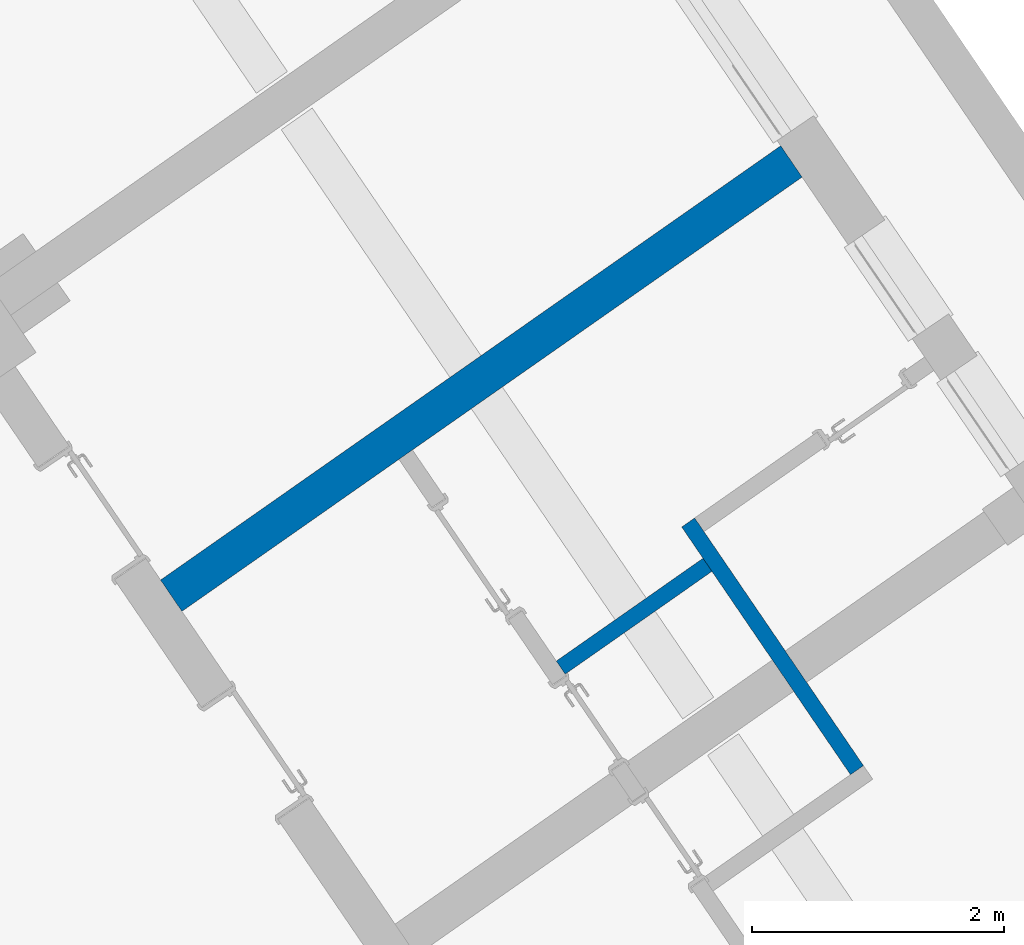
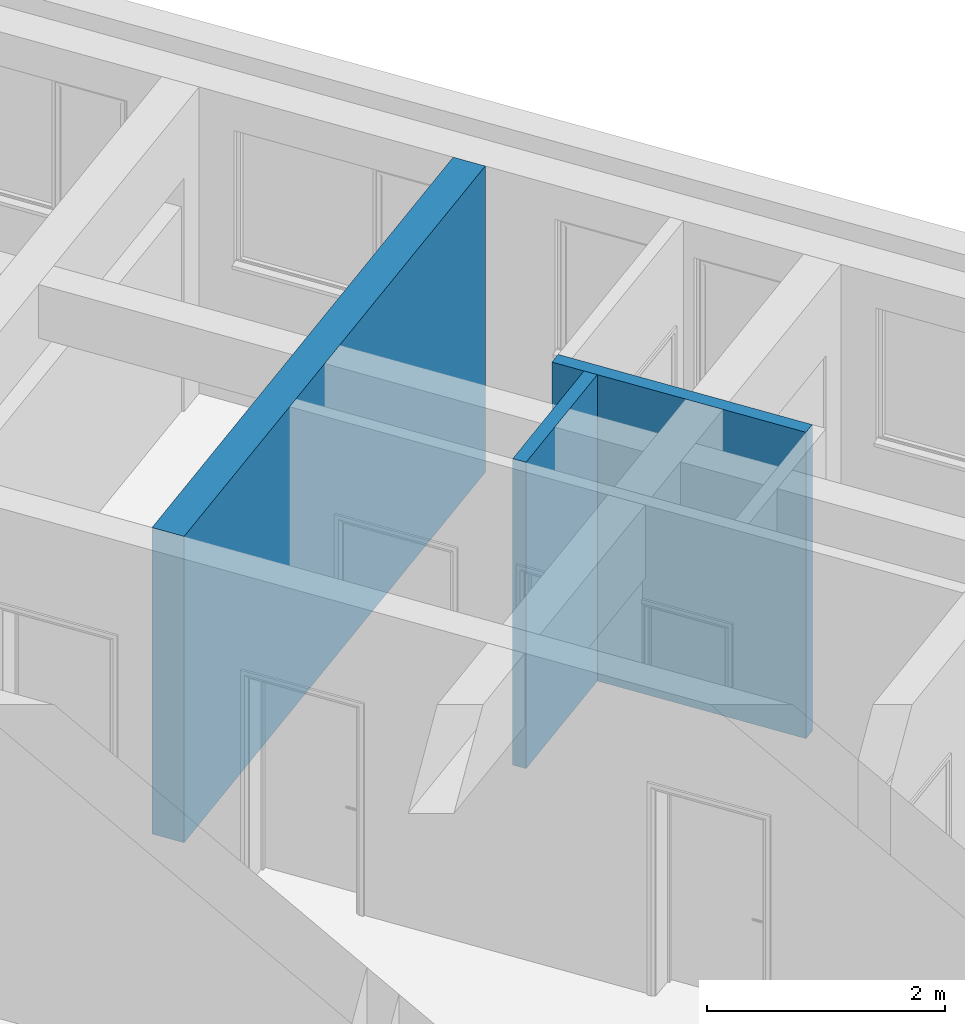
# One storey, part 54 of 112: 3 walls.
"""IFC2X3 building model written with IfcOpenShell, lengths in millimetres."""

from ifc_helpers import new_model, entity, si_unit, converted_unit, derived_unit, direction, frame, origin, place, context, subcontext, project, spatial, polyline, outline, extrude, material, layer, layer_set, layer_usage, type_object, element, save


model = new_model("IFC2X3")

# Units and contexts
model_context = context("Model", 3, precision=0.01, world=origin(), true_north=direction((6.123031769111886e-17, 1.0)))
body_context = subcontext(model_context, "Body", "Model", "MODEL_VIEW")
ifc_project = project(units=[si_unit("LENGTHUNIT", "METRE", prefix="MILLI"), si_unit("AREAUNIT", "SQUARE_METRE"), si_unit("VOLUMEUNIT", "CUBIC_METRE"), converted_unit("PLANEANGLEUNIT", "DEGREE", entity("IfcRatioMeasure", 0.017453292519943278), si_unit("PLANEANGLEUNIT", "RADIAN"), dimensions=[0, 0, 0, 0, 0, 0, 0]), si_unit("MASSUNIT", "GRAM", prefix="KILO"), derived_unit("MASSDENSITYUNIT", [(si_unit("MASSUNIT", "GRAM", prefix="KILO"), 1), (si_unit("LENGTHUNIT", "METRE"), -3)]), derived_unit("MOMENTOFINERTIAUNIT", [(si_unit("LENGTHUNIT", "METRE"), 4)]), si_unit("TIMEUNIT", "SECOND"), si_unit("FREQUENCYUNIT", "HERTZ"), si_unit("THERMODYNAMICTEMPERATUREUNIT", "DEGREE_CELSIUS"), derived_unit("THERMALTRANSMITTANCEUNIT", [(si_unit("MASSUNIT", "GRAM", prefix="KILO"), 1), (si_unit("THERMODYNAMICTEMPERATUREUNIT", "KELVIN"), -1), (si_unit("TIMEUNIT", "SECOND"), -3)]), derived_unit("THERMALCONDUCTANCEUNIT", [(si_unit("MASSUNIT", "GRAM", prefix="KILO"), 1), (si_unit("LENGTHUNIT", "METRE"), 1), (si_unit("THERMODYNAMICTEMPERATUREUNIT", "KELVIN"), -1), (si_unit("TIMEUNIT", "SECOND"), -3)]), derived_unit("VOLUMETRICFLOWRATEUNIT", [(si_unit("LENGTHUNIT", "METRE"), 3), (si_unit("TIMEUNIT", "SECOND"), -1)]), derived_unit("MASSFLOWRATEUNIT", [(si_unit("MASSUNIT", "GRAM", prefix="KILO"), 1), (si_unit("TIMEUNIT", "SECOND"), -1)]), derived_unit("ROTATIONALFREQUENCYUNIT", [(si_unit("TIMEUNIT", "SECOND"), -1)]), si_unit("ELECTRICCURRENTUNIT", "AMPERE"), si_unit("ELECTRICVOLTAGEUNIT", "VOLT"), si_unit("POWERUNIT", "WATT"), converted_unit("FORCEUNIT", "KIP", entity("IfcRatioMeasure", 2.088543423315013e-05), si_unit("FORCEUNIT", "NEWTON"), dimensions=[1, 1, -2, 0, 0, 0, 0]), si_unit("ILLUMINANCEUNIT", "LUX"), si_unit("LUMINOUSFLUXUNIT", "LUMEN"), si_unit("LUMINOUSINTENSITYUNIT", "CANDELA"), derived_unit("USERDEFINED", [(si_unit("MASSUNIT", "GRAM", prefix="KILO"), -1), (si_unit("LENGTHUNIT", "METRE"), -2), (si_unit("TIMEUNIT", "SECOND"), 3), (si_unit("LUMINOUSFLUXUNIT", "LUMEN"), 1)]), derived_unit("USERDEFINED", [(si_unit("MASSUNIT", "GRAM", prefix="KILO"), 1), (si_unit("LENGTHUNIT", "METRE"), 3), (si_unit("TIMEUNIT", "SECOND"), -3), (si_unit("ELECTRICCURRENTUNIT", "AMPERE"), -2)]), derived_unit("USERDEFINED", [(si_unit("LENGTHUNIT", "METRE"), 2), (si_unit("TIMEUNIT", "SECOND"), -2)]), derived_unit("SOUNDPOWERUNIT", [(si_unit("MASSUNIT", "GRAM", prefix="KILO"), 1), (si_unit("LENGTHUNIT", "METRE"), 2), (si_unit("TIMEUNIT", "SECOND"), -3)]), derived_unit("SOUNDPRESSUREUNIT", [(si_unit("MASSUNIT", "GRAM", prefix="KILO"), 1), (si_unit("LENGTHUNIT", "METRE"), -1), (si_unit("TIMEUNIT", "SECOND"), -2)]), derived_unit("LINEARVELOCITYUNIT", [(si_unit("LENGTHUNIT", "METRE"), 1), (si_unit("TIMEUNIT", "SECOND"), -1)]), si_unit("PRESSUREUNIT", "PASCAL"), derived_unit("USERDEFINED", [(si_unit("LENGTHUNIT", "METRE"), -2), (si_unit("MASSUNIT", "GRAM", prefix="KILO"), 1), (si_unit("TIMEUNIT", "SECOND"), -2)]), derived_unit("LINEARFORCEUNIT", [(si_unit("MASSUNIT", "GRAM", prefix="KILO"), 1), (si_unit("LENGTHUNIT", "METRE"), 1), (si_unit("TIMEUNIT", "SECOND"), -2), (si_unit("LENGTHUNIT", "METRE"), -1)]), derived_unit("PLANARFORCEUNIT", [(si_unit("MASSUNIT", "GRAM", prefix="KILO"), 1), (si_unit("LENGTHUNIT", "METRE"), 1), (si_unit("TIMEUNIT", "SECOND"), -2), (si_unit("LENGTHUNIT", "METRE"), -2)]), derived_unit("SPECIFICHEATCAPACITYUNIT", [(si_unit("LENGTHUNIT", "METRE"), 2), (si_unit("TIMEUNIT", "SECOND"), -2), (si_unit("THERMODYNAMICTEMPERATUREUNIT", "KELVIN"), -1)]), derived_unit("VAPORPERMEABILITYUNIT", [(si_unit("TIMEUNIT", "SECOND"), 1), (si_unit("LENGTHUNIT", "METRE"), -1)]), derived_unit("DYNAMICVISCOSITYUNIT", [(si_unit("MASSUNIT", "GRAM", prefix="KILO"), 1), (si_unit("LENGTHUNIT", "METRE"), -1), (si_unit("TIMEUNIT", "SECOND"), -1)]), derived_unit("THERMALEXPANSIONCOEFFICIENTUNIT", [(si_unit("THERMODYNAMICTEMPERATUREUNIT", "KELVIN"), -1)])], contexts=[model_context])

# Site, building, storey
site_placement = place(None, frame((0.0, 0.0, 0.0), z_axis=(0.0, 0.0, 1.0), x_axis=(0.8191520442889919, 0.5735764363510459, 0.0)))
site = spatial("IfcSite", under=ifc_project, at=site_placement, Name="Default", CompositionType="ELEMENT")
building_placement = place(site_placement, origin())
building = spatial("IfcBuilding", under=site, at=building_placement, CompositionType="ELEMENT")
storey_placement = place(building_placement, frame((0.0, 0.0, -3600.0)))
storey = spatial("IfcBuildingStorey", under=building, at=storey_placement, Name="0.UG -3.60", CompositionType="ELEMENT", Elevation=-3600.0000000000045)

# Walls
ifc_material = material(Name="Analytical Wall Surface_CJC")
ifc_layer_1 = layer(ifc_material, 300.0)
ifc_layer_set_1 = layer_set([ifc_layer_1], Name="Basic Wall:Wand_Innen_30")
ifc_layer_usage_1 = layer_usage(ifc_layer_set_1, "AXIS2", "NEGATIVE", 150.0)
wall_type_1 = type_object("IfcWallType", Name="Basic Wall:Wand_Innen_30", PredefinedType="STANDARD", material=ifc_layer_set_1)
wall_1_placement = place(storey_placement, frame((-211595.7073855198, 76696.35891435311, 300.0)))
element("IfcWallStandardCase", 1, at=wall_1_placement, inside=storey, type_object=wall_type_1, material=ifc_layer_usage_1, Name="Basic Wall:Wand_Innen_30", ObjectType="Basic Wall:Wand_Innen_30", context=body_context, shape_type="SweptSolid", body=[
    extrude(outline(polyline([(6000.472315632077, -150.0), (6004.291514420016, 150.0), (3.8191857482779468, 150.0), (0.0, -150.0), (2100.1701652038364, -150.0), (2230.1806992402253, -150.0), (6000.472315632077, -150.0)])), origin(), (0.0, 0.0, 1.0), 3150.000000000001),
])
ifc_layer_2 = layer(ifc_material, 125.00000000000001)
ifc_layer_set_2 = layer_set([ifc_layer_2], Name="Basic Wall:Wand_Innen_12.5")
ifc_layer_usage_2 = layer_usage(ifc_layer_set_2, "AXIS2", "NEGATIVE", 62.50000000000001)
wall_type_2 = type_object("IfcWallType", Name="Basic Wall:Wand_Innen_12.5", PredefinedType="STANDARD", material=ifc_layer_set_2)
wall_2_placement = place(storey_placement, frame((-207935.1122247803, 72445.56331512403, 300.0), z_axis=(0.0, 0.0, 1.0), x_axis=(0.012729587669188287, 0.9999189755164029, 0.0)))
element("IfcWallStandardCase", 2, at=wall_2_placement, inside=storey, type_object=wall_type_2, material=ifc_layer_usage_2, Name="Basic Wall:Wand_Innen_12.5", ObjectType="Basic Wall:Wand_Innen_12.5", context=body_context, shape_type="SweptSolid", body=[
    extrude(outline(polyline([(2376.7837761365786, -62.4999999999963), (2375.1924487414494, 62.500000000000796), (2075.168139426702, 62.50000000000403), (1950.1580105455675, 62.500000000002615), (1100.0891341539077, 62.500000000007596), (800.064824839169, 62.50000000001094), (0.0, 62.50000000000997), (1.59132739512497, -62.49999999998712), (801.656152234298, -62.49999999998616), (1101.6804615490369, -62.4999999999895), (2246.7732421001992, -62.49999999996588), (2376.7837761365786, -62.4999999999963)])), origin(), (0.0, 0.0, 1.0), 3150.000000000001),
])
wall_3_placement = place(storey_placement, frame((-209392.89751747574, 74458.85891435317, 300.0)))
element("IfcWallStandardCase", 3, at=wall_3_placement, inside=storey, type_object=wall_type_2, material=ifc_layer_usage_2, Name="Basic Wall:Wand_Innen_12.5", ObjectType="Basic Wall:Wand_Innen_12.5", context=body_context, shape_type="SweptSolid", body=[
    extrude(outline(polyline([(1420.115064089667, -62.49999999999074), (1421.706391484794, 62.50000000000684), (1.591327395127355, 62.50000000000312), (0.0, -62.49999999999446), (1420.115064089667, -62.49999999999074)])), origin(), (0.0, 0.0, 1.0), 3150.000000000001),
])

save(model, "model.ifc")
